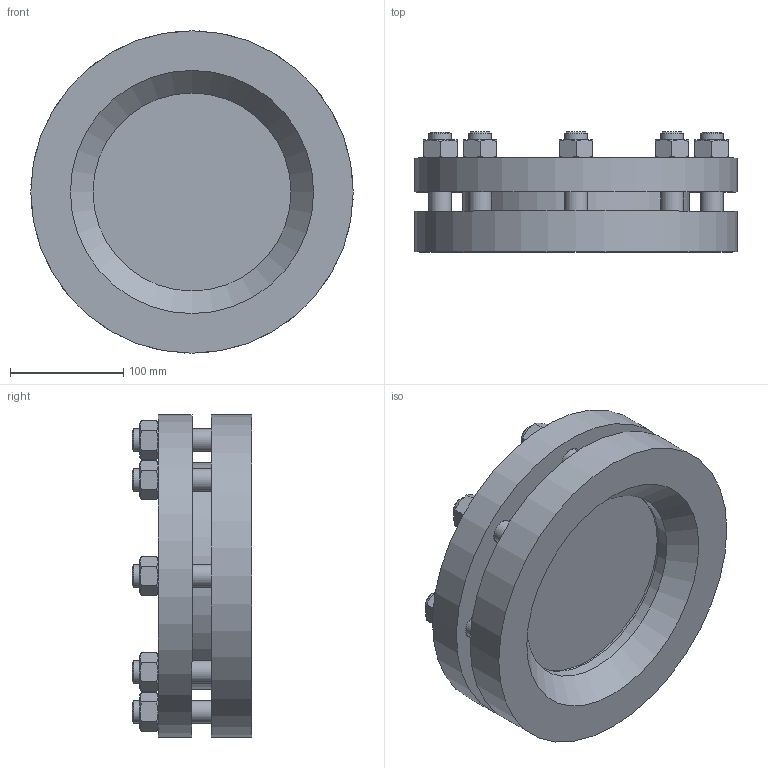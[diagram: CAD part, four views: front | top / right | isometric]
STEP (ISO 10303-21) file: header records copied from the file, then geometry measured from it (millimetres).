
FILE_DESCRIPTION(/* description */ ('Unknown'),/* implementation_level */ '2;1');
FILE_NAME(/* name */ 'Armatur 28120 DN 150 PN10',/* time_stamp */ '2016-08-08T08:01:20+02:00',/* author */ ('Unknown'),/* organization */ ('Unknown'),/* preprocessor_version */ 'ST-DEVELOPER v16.7',/* originating_system */ 'DEX',/* authorisation */ $);
FILE_SCHEMA (('AUTOMOTIVE_DESIGN {1 0 10303 214 3 1 1}'));
Length unit declared in the file: millimetre
Products named in the file (7): 0206.085.38_01; 1345.005.38_01; 0863.179.38_01; 1775.121.38_01; 1346.305.38_01; Stud_DIN_938_1995_CC_M20x70_v12.00; Nut_DIN_934_1987_M20_v10.50
Assembly tree (21 placements, depth 2):
  0206.085.38_01
    1345.005.38_01
    0863.179.38_01  x2
    1775.121.38_01
    1346.305.38_01
    Stud_DIN_938_1995_CC_M20x70_v12.00  x8
    Nut_DIN_934_1987_M20_v10.50  x8
Bounding box: 285 x 106 x 285 mm (x, y, z)
Volume: 3343337.3 mm3; surface area: 456272.7 mm2
Topology: 21 solids, 24 shells, 249 faces, 514 edges, 312 vertices
Faces by surface type: plane 95, cone 95, cylinder 59
Full cylindrical faces by diameter (mm): 17.294 x16, 20 x24, 22 x8, 175 x4, 200 x1, 202 x2, 203 x2, 285 x2
Entity records: 2694 total; most frequent: CARTESIAN_POINT 662, DIRECTION 350, ORIENTED_EDGE 182, AXIS2_PLACEMENT_3D 172, FACE_BOUND 165, EDGE_LOOP 154, VERTEX_POINT 96, EDGE_CURVE 91
